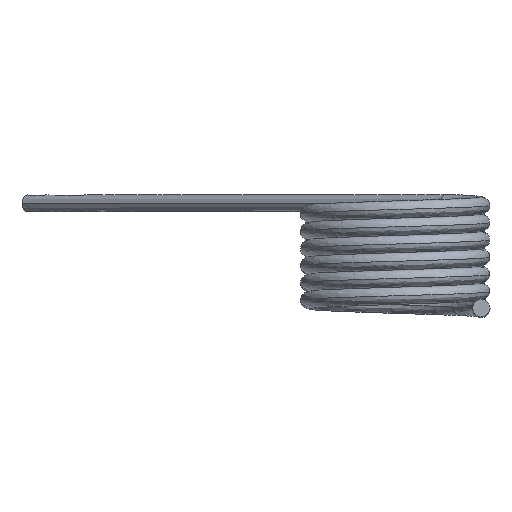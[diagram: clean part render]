
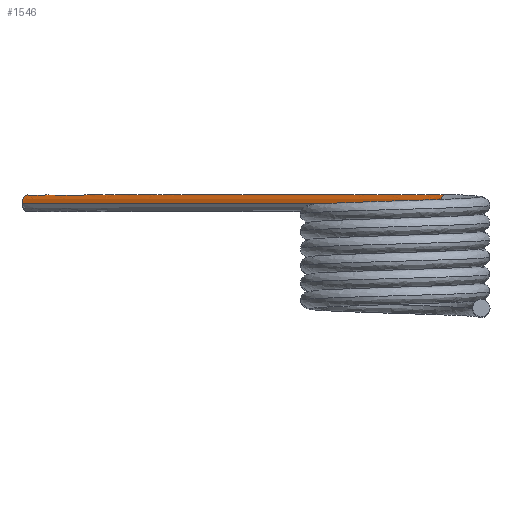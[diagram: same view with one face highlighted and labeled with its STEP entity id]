
A CAD part, top view. The second image highlights one B-rep face of the part: STEP entity #1546.
In plain terms, the highlighted face is a extrusion surface.
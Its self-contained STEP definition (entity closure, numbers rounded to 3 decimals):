
#498=DIRECTION('',(-0.809,0.,-0.588));
#499=VECTOR('',#498,12.);
#500=CARTESIAN_POINT('',(1.293,2.46,-1.78));
#501=LINE('',#500,#499);
#502=DIRECTION('',(-0.809,0.,-0.588));
#503=VECTOR('',#502,12.);
#504=CARTESIAN_POINT('',(1.058,2.46,-1.456));
#505=LINE('',#504,#503);
#506=CARTESIAN_POINT('',(1.058,2.46,-1.456));
#507=CARTESIAN_POINT('',(1.058,2.526,-1.456));
#508=CARTESIAN_POINT('',(1.107,2.665,-1.523));
#509=CARTESIAN_POINT('',(1.244,2.665,-1.713));
#510=CARTESIAN_POINT('',(1.293,2.526,-1.78));
#511=CARTESIAN_POINT('',(1.293,2.46,-1.78));
#565=CARTESIAN_POINT('',(-8.65,2.46,-8.51));
#566=CARTESIAN_POINT('',(-8.65,2.526,-8.51));
#567=CARTESIAN_POINT('',(-8.601,2.665,-8.577));
#568=CARTESIAN_POINT('',(-8.464,2.665,-8.766));
#569=CARTESIAN_POINT('',(-8.415,2.526,-8.833));
#570=CARTESIAN_POINT('',(-8.415,2.46,-8.833));
#599=VERTEX_POINT('',#565);
#600=VERTEX_POINT('',#570);
#601=VERTEX_POINT('',#506);
#602=VERTEX_POINT('',#511);
#1526=CARTESIAN_POINT('',(1.06,2.429,-1.459));
#1527=CARTESIAN_POINT('',(1.059,2.439,-1.457));
#1528=CARTESIAN_POINT('',(1.054,2.515,-1.451));
#1529=CARTESIAN_POINT('',(1.107,2.665,-1.523));
#1530=CARTESIAN_POINT('',(1.244,2.665,-1.713));
#1531=CARTESIAN_POINT('',(1.297,2.515,-1.785));
#1532=CARTESIAN_POINT('',(1.293,2.439,-1.779));
#1533=CARTESIAN_POINT('',(1.291,2.429,-1.777));
#1535=DIRECTION('',(-0.809,0.,-0.588));
#1536=VECTOR('',#1535,1.);
#1537=SURFACE_OF_LINEAR_EXTRUSION('',#1534,#1536);
#1539=ORIENTED_EDGE('',*,*,#1538,.F.);
#1540=ORIENTED_EDGE('',*,*,#1521,.T.);
#1542=ORIENTED_EDGE('',*,*,#1541,.T.);
#1543=ORIENTED_EDGE('',*,*,#1517,.F.);
#1544=EDGE_LOOP('',(#1539,#1540,#1542,#1543));
#1545=FACE_OUTER_BOUND('',#1544,.F.);
#1546=ADVANCED_FACE('',(#1545),#1537,.T.);
#512=B_SPLINE_CURVE_WITH_KNOTS('',3,(#506,#507,#508,#509,#510,#511),
.UNSPECIFIED.,.F.,.F.,(4,1,1,4),(0.,0.334,0.666,1.),
.UNSPECIFIED.);
#571=B_SPLINE_CURVE_WITH_KNOTS('',3,(#565,#566,#567,#568,#569,#570),
.UNSPECIFIED.,.F.,.F.,(4,1,1,4),(0.,0.334,0.666,1.),
.UNSPECIFIED.);
#1517=EDGE_CURVE('',#602,#600,#501,.T.);
#1521=EDGE_CURVE('',#601,#599,#505,.T.);
#1534=B_SPLINE_CURVE_WITH_KNOTS('',3,(#1526,#1527,#1528,#1529,#1530,#1531,#1532,
#1533),.UNSPECIFIED.,.F.,.F.,(4,1,1,1,1,4),(0.,0.048,
0.351,0.65,0.953,1.),.UNSPECIFIED.);
#1538=EDGE_CURVE('',#601,#602,#512,.T.);
#1541=EDGE_CURVE('',#599,#600,#571,.T.);
